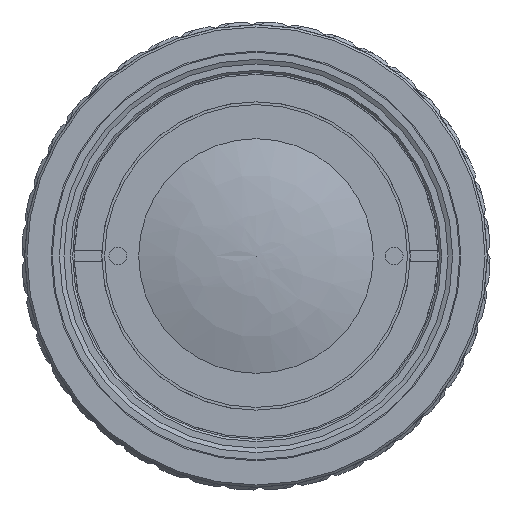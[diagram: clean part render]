
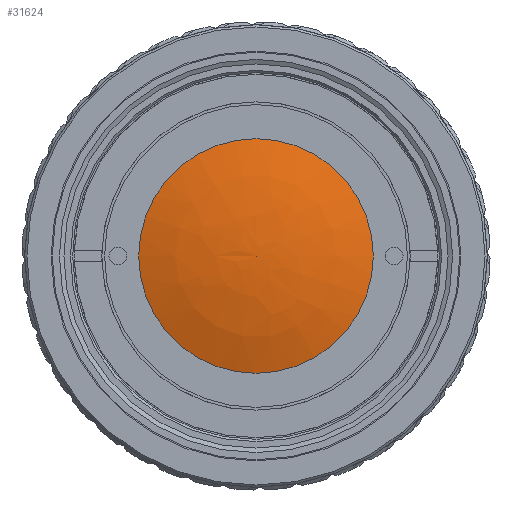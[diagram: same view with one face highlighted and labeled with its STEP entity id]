
A CAD part, left-side view. The second image highlights one B-rep face of the part: STEP entity #31624.
In plain terms, the highlighted face is a revolution surface.
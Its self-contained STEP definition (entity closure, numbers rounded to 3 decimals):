
#54=SURFACE_OF_REVOLUTION('',#62,#58);
#58=AXIS1_PLACEMENT('',#91827,#79344);
#62=B_SPLINE_CURVE_WITH_KNOTS('',3,(#91823,#91824,#91825,#91826),.UNSPECIFIED.,
.F.,.F.,(4,4),(0.,1.),.UNSPECIFIED.);
#25644=VERTEX_LOOP('',#58738);
#27262=FACE_BOUND('',#25644,.T.);
#31624=ADVANCED_FACE('',(#36275,#27262),#54,.F.);
#36275=FACE_OUTER_BOUND('',#39372,.T.);
#39372=EDGE_LOOP('',(#42789));
#42789=ORIENTED_EDGE('',*,*,#63832,.F.);
#58737=VERTEX_POINT('',#91821);
#58738=VERTEX_POINT('',#91822);
#63832=EDGE_CURVE('',#58737,#58737,#71800,.T.);
#71800=CIRCLE('',#73943,11.05);
#73943=AXIS2_PLACEMENT_3D('',#91820,#79342,#79343);
#79342=DIRECTION('',(1.,0.,0.));
#79343=DIRECTION('',(0.,0.,1.));
#79344=DIRECTION('',(-1.,0.,0.));
#91820=CARTESIAN_POINT('',(-62.149,0.,0.));
#91821=CARTESIAN_POINT('',(-62.149,0.,11.05));
#91822=CARTESIAN_POINT('',(-63.907,0.,0.));
#91823=CARTESIAN_POINT('',(-63.907,0.,0.));
#91824=CARTESIAN_POINT('',(-63.907,3.683,0.));
#91825=CARTESIAN_POINT('',(-63.354,7.367,0.));
#91826=CARTESIAN_POINT('',(-62.149,11.05,0.));
#91827=CARTESIAN_POINT('',(-63.907,0.,0.));
